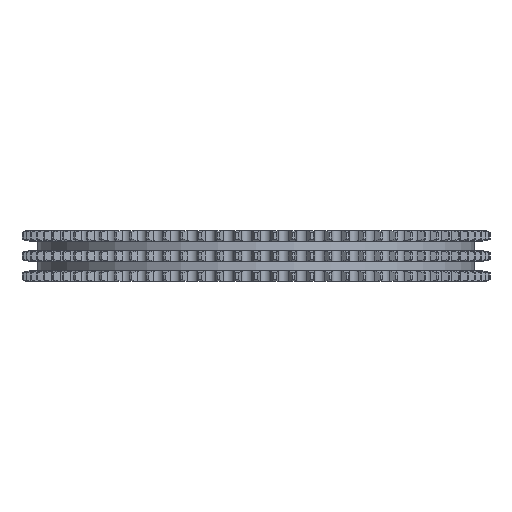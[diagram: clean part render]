
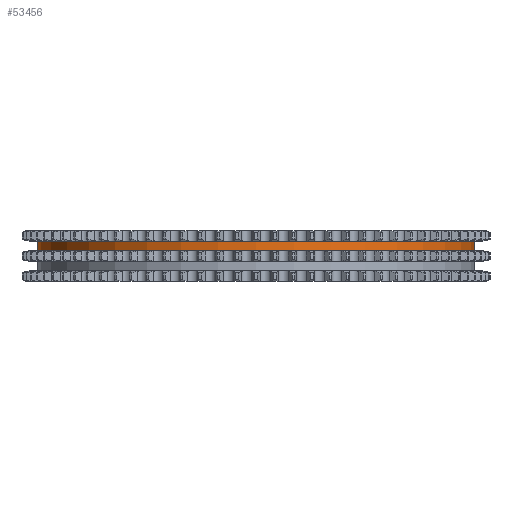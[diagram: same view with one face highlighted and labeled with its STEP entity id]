
A CAD part, left-side view. The second image highlights one B-rep face of the part: STEP entity #53456.
In plain terms, the highlighted cylindrical face has radius 149.702 mm (diameter 299.403 mm), a partial arc.
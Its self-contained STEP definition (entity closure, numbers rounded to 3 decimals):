
#9599=DIRECTION('',(0.,0.,-1.));
#9600=VECTOR('',#9599,6.65);
#9601=CARTESIAN_POINT('',(0.,149.702,10.25));
#9602=LINE('',#9601,#9600);
#9606=CARTESIAN_POINT('',(0.,0.,10.25));
#9607=DIRECTION('',(0.,0.,1.));
#9608=DIRECTION('',(0.,1.,0.));
#9609=AXIS2_PLACEMENT_3D('',#9606,#9607,#9608);
#9614=DIRECTION('',(0.,0.,-1.));
#9615=VECTOR('',#9614,6.65);
#9616=CARTESIAN_POINT('',(0.,-149.702,10.25));
#9617=LINE('',#9616,#9615);
#9621=CARTESIAN_POINT('',(0.,0.,3.6));
#9622=DIRECTION('',(0.,0.,1.));
#9623=DIRECTION('',(0.,1.,0.));
#9624=AXIS2_PLACEMENT_3D('',#9621,#9622,#9623);
#42738=CARTESIAN_POINT('',(0.,149.702,10.25));
#42739=CARTESIAN_POINT('',(0.,149.702,3.6));
#42740=VERTEX_POINT('',#42738);
#42741=VERTEX_POINT('',#42739);
#42742=CARTESIAN_POINT('',(0.,-149.702,10.25));
#42743=CARTESIAN_POINT('',(0.,-149.702,3.6));
#42744=VERTEX_POINT('',#42742);
#42745=VERTEX_POINT('',#42743);
#53444=CARTESIAN_POINT('',(0.,0.,11.275));
#53445=DIRECTION('',(0.,0.,-1.));
#53446=DIRECTION('',(0.,-1.,0.));
#53447=AXIS2_PLACEMENT_3D('',#53444,#53445,#53446);
#53448=CYLINDRICAL_SURFACE('',#53447,149.702);
#53449=ORIENTED_EDGE('',*,*,#53434,.F.);
#53450=ORIENTED_EDGE('',*,*,#53424,.T.);
#53451=ORIENTED_EDGE('',*,*,#53438,.T.);
#53453=ORIENTED_EDGE('',*,*,#53452,.F.);
#53454=EDGE_LOOP('',(#53449,#53450,#53451,#53453));
#53455=FACE_OUTER_BOUND('',#53454,.F.);
#53456=ADVANCED_FACE('',(#53455),#53448,.T.);
#9610=CIRCLE('',#9609,149.702);
#9625=CIRCLE('',#9624,149.702);
#53424=EDGE_CURVE('',#42740,#42744,#9610,.T.);
#53434=EDGE_CURVE('',#42740,#42741,#9602,.T.);
#53438=EDGE_CURVE('',#42744,#42745,#9617,.T.);
#53452=EDGE_CURVE('',#42741,#42745,#9625,.T.);
